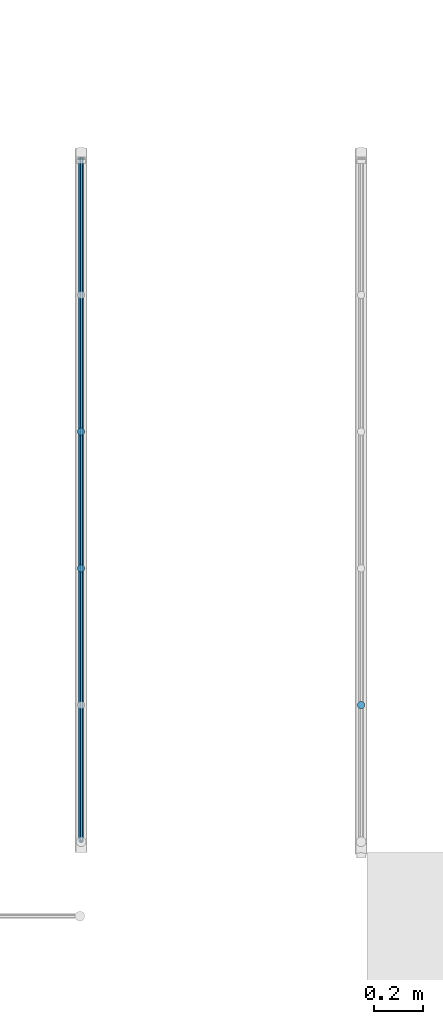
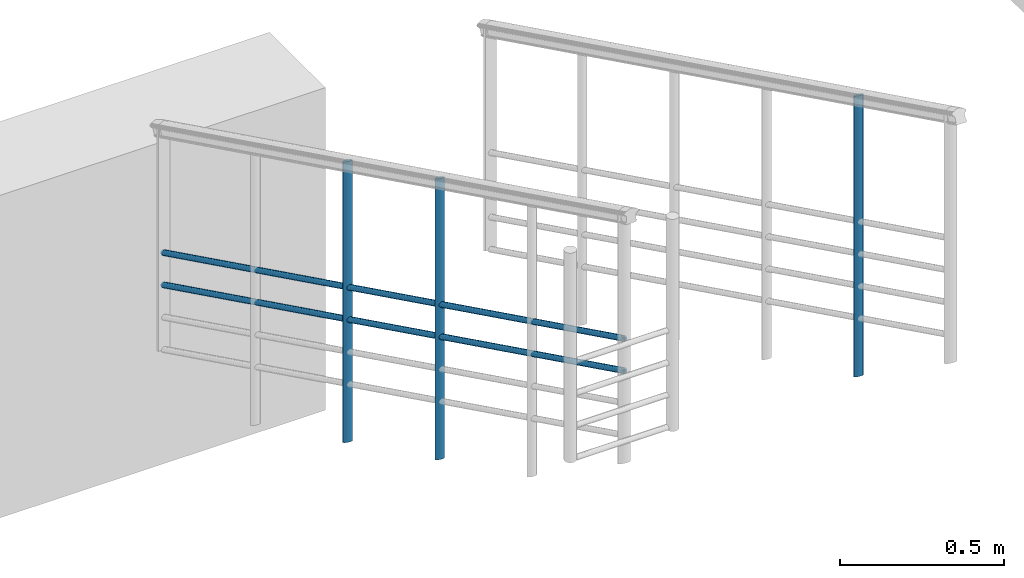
# One storey, part 3 of 16: 5 members, 2 elements without a shape of their own.
"""IFC2X3 building model written with IfcOpenShell, lengths in millimetres."""

from ifc_helpers import new_model, entity, si_unit, converted_unit, derived_unit, money_unit, direction, frame, origin_with_axes, place, context, subcontext, project, spatial, faceted_brep, source, transform, mapped, material, type_object, element, aggregate, save


model = new_model("IFC2X3")

# Units and contexts
model_context = context("Model", 3, precision=0.01, world=origin_with_axes(), true_north=direction((0.0, 1.0)))
body_context = subcontext(model_context, "Body", "Model", "MODEL_VIEW")
ifc_project = project(units=[si_unit("LENGTHUNIT", "METRE", prefix="MILLI"), si_unit("AREAUNIT", "SQUARE_METRE"), si_unit("VOLUMEUNIT", "CUBIC_METRE"), converted_unit("PLANEANGLEUNIT", "DEGREE", entity("IfcPlaneAngleMeasure", 0.0174532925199), si_unit("PLANEANGLEUNIT", "RADIAN"), dimensions=[0, 0, 0, 0, 0, 0, 0]), si_unit("SOLIDANGLEUNIT", "STERADIAN"), money_unit("EUR"), converted_unit("TIMEUNIT", "Year", entity("IfcTimeMeasure", 31556926.0), si_unit("TIMEUNIT", "SECOND"), dimensions=[0, 0, 1, 0, 0, 0, 0]), si_unit("MASSUNIT", "GRAM", prefix="KILO"), si_unit("THERMODYNAMICTEMPERATUREUNIT", "DEGREE_CELSIUS"), si_unit("LUMINOUSINTENSITYUNIT", "LUMEN"), si_unit("ENERGYUNIT", "JOULE", prefix="MEGA"), derived_unit("THERMALCONDUCTANCEUNIT", [(si_unit("POWERUNIT", "WATT"), 1), (si_unit("LENGTHUNIT", "METRE"), -1), (si_unit("THERMODYNAMICTEMPERATUREUNIT", "KELVIN"), -1)]), derived_unit("SPECIFICHEATCAPACITYUNIT", [(si_unit("ENERGYUNIT", "JOULE"), 1), (si_unit("MASSUNIT", "GRAM", prefix="KILO"), -1), (si_unit("THERMODYNAMICTEMPERATUREUNIT", "KELVIN"), -1)]), derived_unit("MASSDENSITYUNIT", [(si_unit("MASSUNIT", "GRAM", prefix="KILO"), 1), (si_unit("VOLUMEUNIT", "CUBIC_METRE"), -1)])], contexts=[model_context])

# Site, building, storey
site_placement = place(None, origin_with_axes())
site = spatial("IfcSite", under=ifc_project, at=site_placement, Name="Paldiski mnt 245/1, Tallinn, Harjumaa", CompositionType="COMPLEX")
building_placement = place(site_placement, origin_with_axes())
building = spatial("IfcBuilding", under=site, at=building_placement, Name="RKAS Hoone üldnimetus (kasutust iseloomustav) -> IFC Project Manager -> SOLIBRI", CompositionType="ELEMENT")
storey_placement = place(building_placement, frame((0.0, 0.0, -1200.0), z_axis=(0.0, 0.0, 1.0), x_axis=(1.0, 0.0, 0.0)))
storey = spatial("IfcBuildingStorey", under=building, at=storey_placement, Name="Vundament", CompositionType="ELEMENT", Elevation=-1200.0)

# Railing, members
railing_type = type_object("IfcRailingType", Name="Railing Type", PredefinedType="NOTDEFINED")
railing_1_placement = place(storey_placement, frame((-45764.8098199, -7778.11378171, 1483.63636364), z_axis=(0.0, 0.0, 1.0), x_axis=(-0.773149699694, -0.634223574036, 0.0)))
railing_1 = element("IfcRailing", 1, at=railing_1_placement, inside=storey, type_object=railing_type, Name="PIIRE", PredefinedType="NOTDEFINED")
ifc_material = material(Name="ET-07_Teras - Roostevaba")
member_type_1 = type_object("IfcMemberType", Name="IfcMember", PredefinedType="USERDEFINED")
shared_shape_1 = source(origin_with_axes(), body_context, "Body", "Brep", [
    faceted_brep([(10.0, 0.0, 340.0), (9.84807753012, 0.767326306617, 341.55774815), (9.84807753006, -2806.30553558, 1724.28502088), (9.99999999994, -2807.07286188, 1722.72727273), (9.84807753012, -0.767326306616, 338.44225185), (9.39692620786, -1.51133779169, 336.931835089), (8.66025403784, -2.20942804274, 335.514642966), (7.66044443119, -2.84038594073, 334.233736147), (6.42787609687, -3.38504014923, 333.128034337), (5.0, -3.82684162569, 332.231133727), (3.42020143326, -4.15236645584, 331.570286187), (1.73648177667, -4.35172373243, 331.165571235), (0.0, -4.41885608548, 331.029285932), (-1.73648177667, -4.35172373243, 331.165571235), (-3.42020143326, -4.15236645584, 331.570286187), (-5.0, -3.82684162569, 332.231133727), (-6.42787609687, -3.38504014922, 333.128034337), (-7.66044443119, -2.84038594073, 334.233736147), (-8.66025403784, -2.20942804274, 335.514642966), (-9.39692620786, -1.51133779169, 336.931835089), (-9.84807753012, -0.767326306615, 338.44225185), (-10.0, 0.0, 340.0), (-9.84807753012, 0.767326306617, 341.55774815), (-9.39692620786, 1.51133779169, 343.068164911), (-8.66025403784, 2.20942804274, 344.485357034), (-7.66044443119, 2.84038594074, 345.766263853), (-6.42787609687, 3.38504014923, 346.871965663), (-5.0, 3.8268416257, 347.768866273), (-3.42020143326, 4.15236645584, 348.429713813), (-1.73648177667, 4.35172373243, 348.834428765), (0.0, 4.41885608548, 348.970714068), (1.73648177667, 4.35172373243, 348.834428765), (3.42020143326, 4.15236645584, 348.429713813), (5.0, 3.8268416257, 347.768866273), (6.42787609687, 3.38504014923, 346.871965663), (7.66044443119, 2.84038594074, 345.766263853), (8.66025403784, 2.20942804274, 344.485357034), (9.39692620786, 1.51133779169, 343.068164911), (5.5, 0.0, 340.0), (5.41644264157, 0.42202946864, 340.856761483), (5.16830941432, 0.831235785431, 341.687490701), (4.76313972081, 1.21518542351, 342.466946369), (4.21324443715, 1.56221226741, 343.171445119), (3.53533185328, 1.86177208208, 343.779581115), (2.75, 2.10476289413, 344.27287645), (1.88111078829, 2.28380155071, 344.636342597), (0.955064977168, 2.39344805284, 344.858935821), (0.0, 2.43037084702, 344.933892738), (-0.955064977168, 2.39344805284, 344.858935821), (-1.88111078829, 2.28380155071, 344.636342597), (-2.75, 2.10476289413, 344.27287645), (-3.53533185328, 1.86177208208, 343.779581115), (-4.21324443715, 1.56221226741, 343.171445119), (-4.76313972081, 1.21518542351, 342.466946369), (-5.16830941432, 0.831235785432, 341.687490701), (-5.41644264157, 0.42202946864, 340.856761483), (-5.5, 0.0, 340.0), (-5.41644264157, -0.422029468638, 339.143238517), (-5.16830941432, -0.83123578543, 338.312509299), (-4.76313972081, -1.21518542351, 337.533053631), (-4.21324443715, -1.5622122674, 336.828554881), (-3.53533185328, -1.86177208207, 336.220418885), (-2.75, -2.10476289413, 335.72712355), (-1.88111078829, -2.28380155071, 335.363657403), (-0.955064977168, -2.39344805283, 335.141064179), (0.0, -2.43037084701, 335.066107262), (0.955064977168, -2.39344805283, 335.141064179), (1.88111078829, -2.28380155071, 335.363657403), (2.75, -2.10476289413, 335.72712355), (3.53533185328, -1.86177208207, 336.220418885), (4.21324443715, -1.5622122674, 336.828554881), (4.76313972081, -1.21518542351, 337.533053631), (5.16830941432, -0.83123578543, 338.312509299), (5.41644264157, -0.422029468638, 339.143238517), (9.3969262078, -2805.56152409, 1725.79543764), (8.66025403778, -2804.86343384, 1727.21262976), (7.66044443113, -2804.23247594, 1728.49353658), (6.4278760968, -2803.68782173, 1729.59923839), (4.99999999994, -2803.24602026, 1730.496139), (3.42020143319, -2802.92049543, 1731.15698654), (1.73648177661, -2802.72113815, 1731.56170149), (0.0, -2802.6540058, 1731.6979868), (-1.73648177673, -2802.72113815, 1731.56170149), (-3.42020143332, -2802.92049543, 1731.15698654), (-5.00000000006, -2803.24602026, 1730.496139), (-6.42787609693, -2803.68782173, 1729.59923839), (-7.66044443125, -2804.23247594, 1728.49353658), (-8.66025403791, -2804.86343384, 1727.21262976), (-9.39692620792, -2805.56152409, 1725.79543764), (-9.84807753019, -2806.30553558, 1724.28502088), (-10.0000000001, -2807.07286188, 1722.72727273), (-9.84807753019, -2807.84018819, 1721.16952458), (-9.39692620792, -2808.58419967, 1719.65910782), (-8.66025403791, -2809.28228993, 1718.24191569), (-7.66044443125, -2809.91324782, 1716.96100887), (-6.42787609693, -2810.45790203, 1715.85530706), (-5.00000000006, -2810.89970351, 1714.95840645), (-3.42020143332, -2811.22522834, 1714.29755891), (-1.73648177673, -2811.42458562, 1713.89284396), (0.0, -2811.49171797, 1713.75655866), (1.73648177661, -2811.42458562, 1713.89284396), (3.42020143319, -2811.22522834, 1714.29755891), (4.99999999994, -2810.89970351, 1714.95840645), (6.4278760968, -2810.45790203, 1715.85530706), (7.66044443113, -2809.91324782, 1716.96100887), (8.66025403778, -2809.28228993, 1718.24191569), (9.3969262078, -2808.58419967, 1719.65910782), (9.84807753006, -2807.84018819, 1721.16952458), (5.49999999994, -2807.07286188, 1722.72727273), (5.4164426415, -2807.49489135, 1721.87051124), (5.16830941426, -2807.90409767, 1721.03978203), (4.76313972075, -2808.28804731, 1720.26032636), (4.21324443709, -2808.63507415, 1719.55582761), (3.53533185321, -2808.93463397, 1718.94769161), (2.74999999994, -2809.17762478, 1718.45439628), (1.88111078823, -2809.35666343, 1718.09093013), (0.955064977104, -2809.46630994, 1717.86833691), (0.0, -2809.50323273, 1717.79337999), (-0.955064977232, -2809.46630994, 1717.86833691), (-1.88111078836, -2809.35666343, 1718.09093013), (-2.75000000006, -2809.17762478, 1718.45439628), (-3.53533185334, -2808.93463397, 1718.94769161), (-4.21324443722, -2808.63507415, 1719.55582761), (-4.76313972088, -2808.28804731, 1720.26032636), (-5.16830941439, -2807.90409767, 1721.03978203), (-5.41644264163, -2807.49489135, 1721.87051124), (-5.50000000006, -2807.07286188, 1722.72727273), (-5.41644264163, -2806.65083241, 1723.58403421), (-5.16830941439, -2806.2416261, 1724.41476343), (-4.76313972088, -2805.85767646, 1725.1942191), (-4.21324443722, -2805.51064962, 1725.89871785), (-3.53533185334, -2805.2110898, 1726.50685384), (-2.75000000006, -2804.96809899, 1727.00014918), (-1.88111078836, -2804.78906033, 1727.36361532), (-0.955064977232, -2804.67941383, 1727.58620855), (0.0, -2804.64249104, 1727.66116546), (0.955064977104, -2804.67941383, 1727.58620855), (1.88111078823, -2804.78906033, 1727.36361532), (2.74999999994, -2804.96809899, 1727.00014918), (3.53533185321, -2805.2110898, 1726.50685384), (4.21324443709, -2805.51064962, 1725.89871785), (4.76313972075, -2805.85767646, 1725.1942191), (5.16830941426, -2806.2416261, 1724.41476343), (5.4164426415, -2806.65083241, 1723.58403421)], [[[0, 1, 2, 3]], [[0, 4, 5, 6, 7, 8, 9, 10, 11, 12, 13, 14, 15, 16, 17, 18, 19, 20, 21, 22, 23, 24, 25, 26, 27, 28, 29, 30, 31, 32, 33, 34, 35, 36, 37, 1], [38, 39, 40, 41, 42, 43, 44, 45, 46, 47, 48, 49, 50, 51, 52, 53, 54, 55, 56, 57, 58, 59, 60, 61, 62, 63, 64, 65, 66, 67, 68, 69, 70, 71, 72, 73]], [[1, 37, 74, 2]], [[3, 2, 74, 75, 76, 77, 78, 79, 80, 81, 82, 83, 84, 85, 86, 87, 88, 89, 90, 91, 92, 93, 94, 95, 96, 97, 98, 99, 100, 101, 102, 103, 104, 105, 106, 107], [108, 109, 110, 111, 112, 113, 114, 115, 116, 117, 118, 119, 120, 121, 122, 123, 124, 125, 126, 127, 128, 129, 130, 131, 132, 133, 134, 135, 136, 137, 138, 139, 140, 141, 142, 143]], [[4, 0, 3, 107]], [[5, 4, 107, 106]], [[6, 5, 106, 105]], [[7, 6, 105, 104]], [[8, 7, 104, 103]], [[9, 8, 103, 102]], [[10, 9, 102, 101]], [[11, 10, 101, 100]], [[12, 11, 100, 99]], [[13, 12, 99, 98]], [[14, 13, 98, 97]], [[15, 14, 97, 96]], [[16, 15, 96, 95]], [[17, 16, 95, 94]], [[18, 17, 94, 93]], [[19, 18, 93, 92]], [[20, 19, 92, 91]], [[21, 20, 91, 90]], [[22, 21, 90, 89]], [[23, 22, 89, 88]], [[24, 23, 88, 87]], [[25, 24, 87, 86]], [[26, 25, 86, 85]], [[27, 26, 85, 84]], [[28, 27, 84, 83]], [[29, 28, 83, 82]], [[30, 29, 82, 81]], [[31, 30, 81, 80]], [[32, 31, 80, 79]], [[33, 32, 79, 78]], [[34, 33, 78, 77]], [[35, 34, 77, 76]], [[36, 35, 76, 75]], [[37, 36, 75, 74]], [[39, 38, 108, 143]], [[40, 39, 143, 142]], [[41, 40, 142, 141]], [[42, 41, 141, 140]], [[43, 42, 140, 139]], [[44, 43, 139, 138]], [[45, 44, 138, 137]], [[46, 45, 137, 136]], [[47, 46, 136, 135]], [[48, 47, 135, 134]], [[49, 48, 134, 133]], [[50, 49, 133, 132]], [[51, 50, 132, 131]], [[52, 51, 131, 130]], [[53, 52, 130, 129]], [[54, 53, 129, 128]], [[55, 54, 128, 127]], [[56, 55, 127, 126]], [[57, 56, 126, 125]], [[58, 57, 125, 124]], [[59, 58, 124, 123]], [[60, 59, 123, 122]], [[61, 60, 122, 121]], [[62, 61, 121, 120]], [[63, 62, 120, 119]], [[64, 63, 119, 118]], [[65, 64, 118, 117]], [[66, 65, 117, 116]], [[67, 66, 116, 115]], [[68, 67, 115, 114]], [[69, 68, 114, 113]], [[70, 69, 113, 112]], [[71, 70, 112, 111]], [[72, 71, 111, 110]], [[73, 72, 110, 109]], [[38, 73, 109, 108]]]),
])
member_1_placement = place(railing_1_placement, frame((890.155891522, 1085.14377009, 225.857864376), z_axis=(0.0, 0.0, 1.0), x_axis=(-0.773149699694, 0.634223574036, 0.0)))
member_1 = element("IfcMember", 2, at=member_1_placement, type_object=member_type_1, material=ifc_material, Name="Piirde alaosa - 001", ObjectType="Rail", context=body_context, shape_type="MappedRepresentation", body=[
    mapped(shared_shape_1, transform((0.0, 1403.53643094, -325.857864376))),
])
shared_shape_2 = source(origin_with_axes(), body_context, "Body", "Brep", [
    faceted_brep([(10.0, 0.0, 460.0), (9.84807753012, 0.767326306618, 461.55774815), (9.84807753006, -2806.30553558, 1844.28502088), (9.99999999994, -2807.07286188, 1842.72727273), (9.84807753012, -0.767326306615, 458.44225185), (9.39692620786, -1.51133779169, 456.931835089), (8.66025403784, -2.20942804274, 455.514642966), (7.66044443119, -2.84038594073, 454.233736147), (6.42787609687, -3.38504014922, 453.128034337), (5.0, -3.82684162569, 452.231133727), (3.42020143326, -4.15236645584, 451.570286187), (1.73648177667, -4.35172373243, 451.165571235), (0.0, -4.41885608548, 451.029285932), (-1.73648177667, -4.35172373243, 451.165571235), (-3.42020143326, -4.15236645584, 451.570286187), (-5.0, -3.82684162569, 452.231133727), (-6.42787609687, -3.38504014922, 453.128034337), (-7.66044443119, -2.84038594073, 454.233736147), (-8.66025403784, -2.20942804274, 455.514642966), (-9.39692620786, -1.51133779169, 456.931835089), (-9.84807753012, -0.767326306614, 458.44225185), (-10.0, 0.0, 460.0), (-9.84807753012, 0.767326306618, 461.55774815), (-9.39692620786, 1.51133779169, 463.068164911), (-8.66025403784, 2.20942804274, 464.485357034), (-7.66044443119, 2.84038594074, 465.766263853), (-6.42787609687, 3.38504014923, 466.871965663), (-5.0, 3.8268416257, 467.768866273), (-3.42020143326, 4.15236645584, 468.429713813), (-1.73648177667, 4.35172373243, 468.834428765), (0.0, 4.41885608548, 468.970714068), (1.73648177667, 4.35172373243, 468.834428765), (3.42020143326, 4.15236645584, 468.429713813), (5.0, 3.8268416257, 467.768866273), (6.42787609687, 3.38504014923, 466.871965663), (7.66044443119, 2.84038594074, 465.766263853), (8.66025403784, 2.20942804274, 464.485357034), (9.39692620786, 1.51133779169, 463.068164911), (5.5, 0.0, 460.0), (5.41644264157, 0.422029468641, 460.856761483), (5.16830941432, 0.831235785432, 461.687490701), (4.76313972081, 1.21518542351, 462.466946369), (4.21324443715, 1.56221226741, 463.171445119), (3.53533185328, 1.86177208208, 463.779581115), (2.75, 2.10476289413, 464.27287645), (1.88111078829, 2.28380155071, 464.636342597), (0.955064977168, 2.39344805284, 464.858935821), (0.0, 2.43037084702, 464.933892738), (-0.955064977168, 2.39344805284, 464.858935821), (-1.88111078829, 2.28380155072, 464.636342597), (-2.75, 2.10476289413, 464.27287645), (-3.53533185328, 1.86177208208, 463.779581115), (-4.21324443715, 1.56221226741, 463.171445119), (-4.76313972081, 1.21518542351, 462.466946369), (-5.16830941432, 0.831235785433, 461.687490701), (-5.41644264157, 0.422029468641, 460.856761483), (-5.5, 0.0, 460.0), (-5.41644264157, -0.422029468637, 459.143238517), (-5.16830941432, -0.831235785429, 458.312509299), (-4.76313972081, -1.21518542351, 457.533053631), (-4.21324443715, -1.5622122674, 456.828554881), (-3.53533185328, -1.86177208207, 456.220418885), (-2.75, -2.10476289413, 455.72712355), (-1.88111078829, -2.28380155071, 455.363657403), (-0.955064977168, -2.39344805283, 455.141064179), (0.0, -2.43037084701, 455.066107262), (0.955064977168, -2.39344805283, 455.141064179), (1.88111078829, -2.28380155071, 455.363657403), (2.75, -2.10476289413, 455.72712355), (3.53533185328, -1.86177208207, 456.220418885), (4.21324443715, -1.5622122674, 456.828554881), (4.76313972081, -1.21518542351, 457.533053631), (5.16830941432, -0.831235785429, 458.312509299), (5.41644264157, -0.422029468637, 459.143238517), (9.3969262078, -2805.56152409, 1845.79543764), (8.66025403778, -2804.86343384, 1847.21262976), (7.66044443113, -2804.23247594, 1848.49353658), (6.4278760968, -2803.68782173, 1849.59923839), (4.99999999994, -2803.24602026, 1850.496139), (3.42020143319, -2802.92049543, 1851.15698654), (1.73648177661, -2802.72113815, 1851.56170149), (0.0, -2802.6540058, 1851.6979868), (-1.73648177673, -2802.72113815, 1851.56170149), (-3.42020143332, -2802.92049543, 1851.15698654), (-5.00000000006, -2803.24602026, 1850.496139), (-6.42787609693, -2803.68782173, 1849.59923839), (-7.66044443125, -2804.23247594, 1848.49353658), (-8.66025403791, -2804.86343384, 1847.21262976), (-9.39692620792, -2805.56152409, 1845.79543764), (-9.84807753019, -2806.30553558, 1844.28502088), (-10.0000000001, -2807.07286188, 1842.72727273), (-9.84807753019, -2807.84018819, 1841.16952458), (-9.39692620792, -2808.58419967, 1839.65910782), (-8.66025403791, -2809.28228993, 1838.24191569), (-7.66044443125, -2809.91324782, 1836.96100887), (-6.42787609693, -2810.45790203, 1835.85530706), (-5.00000000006, -2810.89970351, 1834.95840645), (-3.42020143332, -2811.22522834, 1834.29755891), (-1.73648177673, -2811.42458562, 1833.89284396), (0.0, -2811.49171797, 1833.75655866), (1.73648177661, -2811.42458562, 1833.89284396), (3.42020143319, -2811.22522834, 1834.29755891), (4.99999999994, -2810.89970351, 1834.95840645), (6.4278760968, -2810.45790203, 1835.85530706), (7.66044443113, -2809.91324782, 1836.96100887), (8.66025403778, -2809.28228993, 1838.24191569), (9.3969262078, -2808.58419967, 1839.65910782), (9.84807753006, -2807.84018819, 1841.16952458), (5.49999999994, -2807.07286188, 1842.72727273), (5.4164426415, -2807.49489135, 1841.87051124), (5.16830941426, -2807.90409767, 1841.03978203), (4.76313972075, -2808.28804731, 1840.26032636), (4.21324443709, -2808.63507415, 1839.55582761), (3.53533185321, -2808.93463397, 1838.94769161), (2.74999999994, -2809.17762478, 1838.45439628), (1.88111078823, -2809.35666343, 1838.09093013), (0.955064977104, -2809.46630994, 1837.86833691), (0.0, -2809.50323273, 1837.79337999), (-0.955064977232, -2809.46630994, 1837.86833691), (-1.88111078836, -2809.35666343, 1838.09093013), (-2.75000000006, -2809.17762478, 1838.45439628), (-3.53533185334, -2808.93463397, 1838.94769161), (-4.21324443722, -2808.63507415, 1839.55582761), (-4.76313972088, -2808.28804731, 1840.26032636), (-5.16830941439, -2807.90409767, 1841.03978203), (-5.41644264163, -2807.49489135, 1841.87051124), (-5.50000000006, -2807.07286188, 1842.72727273), (-5.41644264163, -2806.65083241, 1843.58403421), (-5.16830941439, -2806.2416261, 1844.41476343), (-4.76313972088, -2805.85767646, 1845.1942191), (-4.21324443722, -2805.51064962, 1845.89871785), (-3.53533185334, -2805.2110898, 1846.50685384), (-2.75000000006, -2804.96809899, 1847.00014918), (-1.88111078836, -2804.78906033, 1847.36361532), (-0.955064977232, -2804.67941383, 1847.58620855), (0.0, -2804.64249104, 1847.66116546), (0.955064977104, -2804.67941383, 1847.58620855), (1.88111078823, -2804.78906033, 1847.36361532), (2.74999999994, -2804.96809899, 1847.00014918), (3.53533185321, -2805.2110898, 1846.50685384), (4.21324443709, -2805.51064962, 1845.89871785), (4.76313972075, -2805.85767646, 1845.1942191), (5.16830941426, -2806.2416261, 1844.41476343), (5.4164426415, -2806.65083241, 1843.58403421)], [[[0, 1, 2, 3]], [[0, 4, 5, 6, 7, 8, 9, 10, 11, 12, 13, 14, 15, 16, 17, 18, 19, 20, 21, 22, 23, 24, 25, 26, 27, 28, 29, 30, 31, 32, 33, 34, 35, 36, 37, 1], [38, 39, 40, 41, 42, 43, 44, 45, 46, 47, 48, 49, 50, 51, 52, 53, 54, 55, 56, 57, 58, 59, 60, 61, 62, 63, 64, 65, 66, 67, 68, 69, 70, 71, 72, 73]], [[1, 37, 74, 2]], [[3, 2, 74, 75, 76, 77, 78, 79, 80, 81, 82, 83, 84, 85, 86, 87, 88, 89, 90, 91, 92, 93, 94, 95, 96, 97, 98, 99, 100, 101, 102, 103, 104, 105, 106, 107], [108, 109, 110, 111, 112, 113, 114, 115, 116, 117, 118, 119, 120, 121, 122, 123, 124, 125, 126, 127, 128, 129, 130, 131, 132, 133, 134, 135, 136, 137, 138, 139, 140, 141, 142, 143]], [[4, 0, 3, 107]], [[5, 4, 107, 106]], [[6, 5, 106, 105]], [[7, 6, 105, 104]], [[8, 7, 104, 103]], [[9, 8, 103, 102]], [[10, 9, 102, 101]], [[11, 10, 101, 100]], [[12, 11, 100, 99]], [[13, 12, 99, 98]], [[14, 13, 98, 97]], [[15, 14, 97, 96]], [[16, 15, 96, 95]], [[17, 16, 95, 94]], [[18, 17, 94, 93]], [[19, 18, 93, 92]], [[20, 19, 92, 91]], [[21, 20, 91, 90]], [[22, 21, 90, 89]], [[23, 22, 89, 88]], [[24, 23, 88, 87]], [[25, 24, 87, 86]], [[26, 25, 86, 85]], [[27, 26, 85, 84]], [[28, 27, 84, 83]], [[29, 28, 83, 82]], [[30, 29, 82, 81]], [[31, 30, 81, 80]], [[32, 31, 80, 79]], [[33, 32, 79, 78]], [[34, 33, 78, 77]], [[35, 34, 77, 76]], [[36, 35, 76, 75]], [[37, 36, 75, 74]], [[39, 38, 108, 143]], [[40, 39, 143, 142]], [[41, 40, 142, 141]], [[42, 41, 141, 140]], [[43, 42, 140, 139]], [[44, 43, 139, 138]], [[45, 44, 138, 137]], [[46, 45, 137, 136]], [[47, 46, 136, 135]], [[48, 47, 135, 134]], [[49, 48, 134, 133]], [[50, 49, 133, 132]], [[51, 50, 132, 131]], [[52, 51, 131, 130]], [[53, 52, 130, 129]], [[54, 53, 129, 128]], [[55, 54, 128, 127]], [[56, 55, 127, 126]], [[57, 56, 126, 125]], [[58, 57, 125, 124]], [[59, 58, 124, 123]], [[60, 59, 123, 122]], [[61, 60, 122, 121]], [[62, 61, 121, 120]], [[63, 62, 120, 119]], [[64, 63, 119, 118]], [[65, 64, 118, 117]], [[66, 65, 117, 116]], [[67, 66, 116, 115]], [[68, 67, 115, 114]], [[69, 68, 114, 113]], [[70, 69, 113, 112]], [[71, 70, 112, 111]], [[72, 71, 111, 110]], [[73, 72, 110, 109]], [[38, 73, 109, 108]]]),
])
member_2_placement = place(railing_1_placement, frame((890.155891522, 1085.14377009, 345.857864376), z_axis=(0.0, 0.0, 1.0), x_axis=(-0.773149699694, 0.634223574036, 0.0)))
member_2 = element("IfcMember", 3, at=member_2_placement, type_object=member_type_1, material=ifc_material, Name="Piirde alaosa - 001", ObjectType="Rail", context=body_context, shape_type="MappedRepresentation", body=[
    mapped(shared_shape_2, transform((0.0, 1403.53643094, -445.857864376))),
])

# Railing, member
railing_2_placement = place(storey_placement, frame((-44615.0, -7778.11378171, 1453.63636364), z_axis=(0.0, 0.0, 1.0), x_axis=(-0.773149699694, -0.634223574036, 0.0)))
railing_2 = element("IfcRailing", 4, at=railing_2_placement, inside=storey, type_object=railing_type, Name="PIIRE", PredefinedType="NOTDEFINED")
member_type_2 = type_object("IfcMemberType", Name="IfcMember", PredefinedType="POST")
shared_shape_3 = source(origin_with_axes(), body_context, "Body", "Brep", [
    faceted_brep([(0.0, -15.0, -7.38880325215), (2.604722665, -14.7721162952, -7.2765507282), (2.604722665, -14.7721162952, 1037.47253237), (0.0, -15.0, 1037.36027985), (-2.604722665, -14.7721162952, -7.2765507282), (-5.13030214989, -14.0953893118, -6.94320389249), (-7.5, -12.9903810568, -6.39889131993), (-9.6418141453, -11.4906666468, -5.66015167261), (-11.4906666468, -9.6418141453, -4.74943118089), (-12.9903810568, -7.5, -3.69440162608), (-14.0953893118, -5.13030214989, -2.52711954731), (-14.7721162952, -2.604722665, -1.28305221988), (-15.0, 0.0, 0.0), (-14.7721162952, 2.604722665, 1.28305221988), (-14.0953893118, 5.13030214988, 2.52711954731), (-12.9903810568, 7.5, 3.69440162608), (-11.4906666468, 9.6418141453, 4.74943118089), (-9.6418141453, 11.4906666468, 5.66015167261), (-7.5, 12.9903810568, 6.39889131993), (-5.13030214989, 14.0953893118, 6.94320389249), (-2.604722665, 14.7721162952, 7.2765507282), (0.0, 15.0, 7.38880325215), (2.604722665, 14.7721162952, 7.2765507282), (5.13030214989, 14.0953893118, 6.94320389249), (7.5, 12.9903810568, 6.39889131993), (9.6418141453, 11.4906666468, 5.66015167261), (11.4906666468, 9.6418141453, 4.74943118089), (12.9903810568, 7.5, 3.69440162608), (14.0953893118, 5.13030214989, 2.52711954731), (14.7721162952, 2.604722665, 1.28305221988), (15.0, 0.0, 0.0), (14.7721162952, -2.604722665, -1.28305221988), (14.0953893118, -5.13030214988, -2.52711954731), (12.9903810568, -7.5, -3.69440162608), (11.4906666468, -9.6418141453, -4.74943118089), (9.6418141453, -11.4906666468, -5.66015167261), (7.5, -12.9903810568, -6.39889131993), (5.13030214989, -14.0953893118, -6.94320389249), (5.13030214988, -14.0953893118, 1037.80587921), (7.5, -12.9903810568, 1038.35019178), (9.6418141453, -11.4906666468, 1039.08893143), (11.4906666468, -9.6418141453, 1039.99965192), (12.9903810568, -7.5, 1041.05468148), (14.0953893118, -5.13030214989, 1042.22196355), (14.7721162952, -2.60472266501, 1043.46603088), (15.0, 0.0, 1044.7490831), (14.7721162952, 2.604722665, 1046.03213532), (14.0953893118, 5.13030214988, 1047.27620265), (12.9903810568, 7.5, 1048.44348473), (11.4906666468, 9.64181414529, 1049.49851428), (9.6418141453, 11.4906666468, 1050.40923477), (7.5, 12.9903810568, 1051.14797442), (5.13030214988, 14.0953893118, 1051.69228699), (2.604722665, 14.7721162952, 1052.02563383), (0.0, 15.0, 1052.13788635), (-2.604722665, 14.7721162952, 1052.02563383), (-5.13030214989, 14.0953893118, 1051.69228699), (-7.5, 12.9903810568, 1051.14797442), (-9.6418141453, 11.4906666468, 1050.40923477), (-11.4906666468, 9.64181414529, 1049.49851428), (-12.9903810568, 7.5, 1048.44348473), (-14.0953893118, 5.13030214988, 1047.27620265), (-14.7721162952, 2.604722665, 1046.03213532), (-15.0, 0.0, 1044.7490831), (-14.7721162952, -2.60472266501, 1043.46603088), (-14.0953893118, -5.13030214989, 1042.22196355), (-12.9903810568, -7.5, 1041.05468148), (-11.4906666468, -9.6418141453, 1039.99965192), (-9.6418141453, -11.4906666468, 1039.08893143), (-7.5, -12.9903810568, 1038.35019178), (-5.13030214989, -14.0953893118, 1037.80587921), (-2.604722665, -14.7721162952, 1037.47253237)], [[[0, 1, 2, 3]], [[0, 4, 5, 6, 7, 8, 9, 10, 11, 12, 13, 14, 15, 16, 17, 18, 19, 20, 21, 22, 23, 24, 25, 26, 27, 28, 29, 30, 31, 32, 33, 34, 35, 36, 37, 1]], [[1, 37, 38, 2]], [[3, 2, 38, 39, 40, 41, 42, 43, 44, 45, 46, 47, 48, 49, 50, 51, 52, 53, 54, 55, 56, 57, 58, 59, 60, 61, 62, 63, 64, 65, 66, 67, 68, 69, 70, 71]], [[4, 0, 3, 71]], [[5, 4, 71, 70]], [[6, 5, 70, 69]], [[7, 6, 69, 68]], [[8, 7, 68, 67]], [[9, 8, 67, 66]], [[10, 9, 66, 65]], [[11, 10, 65, 64]], [[12, 11, 64, 63]], [[13, 12, 63, 62]], [[14, 13, 62, 61]], [[15, 14, 61, 60]], [[16, 15, 60, 59]], [[17, 16, 59, 58]], [[18, 17, 58, 57]], [[19, 18, 57, 56]], [[20, 19, 56, 55]], [[21, 20, 55, 54]], [[22, 21, 54, 53]], [[23, 22, 53, 52]], [[24, 23, 52, 51]], [[25, 24, 51, 50]], [[26, 25, 50, 49]], [[27, 26, 49, 48]], [[28, 27, 48, 47]], [[29, 28, 47, 46]], [[30, 29, 46, 45]], [[31, 30, 45, 44]], [[32, 31, 44, 43]], [[33, 32, 43, 42]], [[34, 33, 42, 41]], [[35, 34, 41, 40]], [[36, 35, 40, 39]], [[37, 36, 39, 38]]]),
])
member_3_placement = place(railing_2_placement, frame((1424.24942644, 1736.23003215, 891.43273508), z_axis=(0.0, 0.0, 1.0), x_axis=(-0.773149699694, 0.634223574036, 0.0)))
member_3 = element("IfcMember", 5, at=member_3_placement, type_object=member_type_2, material=ifc_material, Name="Piirde Post - 001", ObjectType="POST", context=body_context, shape_type="MappedRepresentation", body=[
    mapped(shared_shape_3, transform((0.0, 0.0, 0.0), x_axis=(-1.0, 0.0, 0.0), y_axis=(0.0, -1.0, 0.0), z_axis=(0.0, 0.0, 1.0))),
])
aggregate(railing_2, [member_3])

# Member
member_4_placement = place(railing_1_placement, frame((712.124713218, 868.115016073, 338.341825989), z_axis=(0.0, 0.0, 1.0), x_axis=(-0.773149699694, 0.634223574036, 0.0)))
member_4 = element("IfcMember", 6, at=member_4_placement, type_object=member_type_2, material=ifc_material, Name="Piirde Post - 001", ObjectType="POST", context=body_context, shape_type="MappedRepresentation", body=[
    mapped(shared_shape_3, transform((0.0, 0.0, 0.0), x_axis=(-1.0, 0.0, 0.0), y_axis=(0.0, -1.0, 0.0), z_axis=(0.0, 0.0, 1.0))),
])

member_5_placement = place(railing_1_placement, frame((1068.18706983, 1302.17252411, 614.887280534), z_axis=(0.0, 0.0, 1.0), x_axis=(-0.773149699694, 0.634223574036, 0.0)))
member_5 = element("IfcMember", 7, at=member_5_placement, type_object=member_type_2, material=ifc_material, Name="Piirde Post - 001", ObjectType="POST", context=body_context, shape_type="MappedRepresentation", body=[
    mapped(shared_shape_3, transform((0.0, 0.0, 0.0), x_axis=(-1.0, 0.0, 0.0), y_axis=(0.0, -1.0, 0.0), z_axis=(0.0, 0.0, 1.0))),
])

aggregate(railing_1, [member_1, member_2, member_4, member_5])

save(model, "model.ifc")
